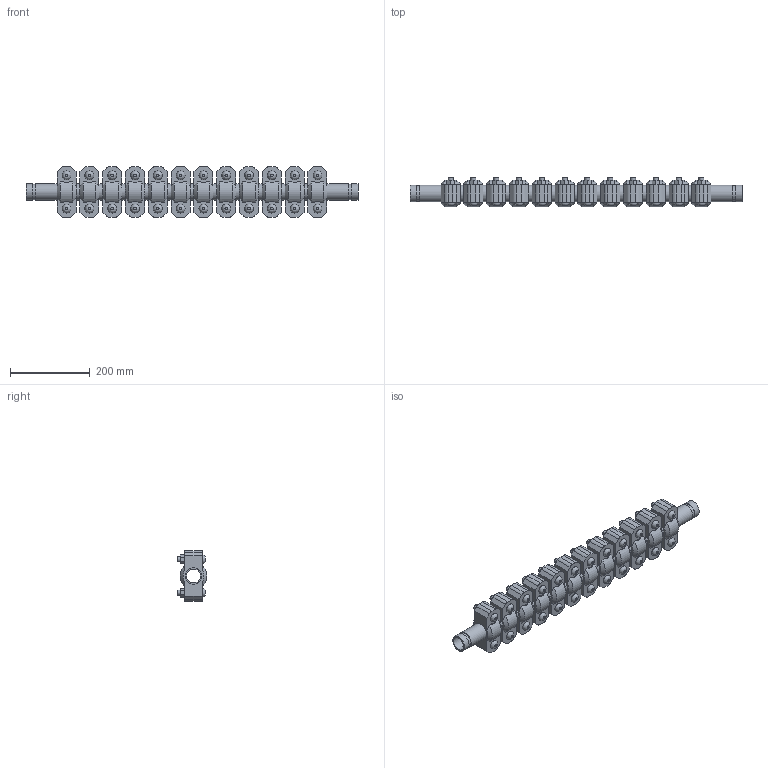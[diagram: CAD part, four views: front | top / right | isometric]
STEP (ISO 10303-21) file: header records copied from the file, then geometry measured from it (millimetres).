
FILE_DESCRIPTION(/* description */ ('VIC EXPANSION JOINT 12 COUPLINGS COMPRESSED STYLE 155 (OGS)','CAx-IF Rec.Pracs.---Representation and Presentation of Product Manufacturing Information (PMI)---4.0---2014-10-13'),/* implementation_level */ '2;1');
FILE_NAME(/* name */ 'C:\Users\kkamble\AppData\Roaming\Autodesk\ApplicationPlugins\Victaulic.Temp\A100\Victaulic_IPS_Expansion Joint_Compressed_12 Couplings_Style 155 (OGS)_1.25 (32).stp',/* time_stamp */ '2021-06-27T00:20:55+02:00',/* author */ ('kkamble'),/* organization */ ('Victaulic'),/* preprocessor_version */ 'ST-DEVELOPER v17.2',/* originating_system */ 'Autodesk Inventor 2019',/* authorisation */ '');
FILE_SCHEMA (('AP242_MANAGED_MODEL_BASED_3D_ENGINEERING_MIM_LF { 1 0 10303 442 1 1 4 }'));
Length unit declared in the file: inch
Products named in the file (4): 155-01.25; Nipple-01.25; Nipple-01.25_1; 077-01.25
Assembly tree (25 placements, depth 2):
  155-01.25
    Nipple-01.25  x2
    Nipple-01.25_1  x11
    077-01.25  x12
Bounding box: 831.85 x 74.93 x 127 mm (x, y, z)
Volume: 3080337.6 mm3; surface area: 713220.8 mm2
Topology: 25 solids, 49 shells, 840 faces, 2058 edges, 1440 vertices
Faces by surface type: plane 486, cylinder 282, cone 48, bspline 24
Full cylindrical faces by diameter (mm): 12.7 x48, 14.605 x24, 35.052 x13, 38.989 x26, 42.164 x51
Entity records: 2987 total; most frequent: CARTESIAN_POINT 555, DIRECTION 495, ORIENTED_EDGE 398, AXIS2_PLACEMENT_3D 200, EDGE_CURVE 199, VERTEX_POINT 142, EDGE_LOOP 105, LINE 95
